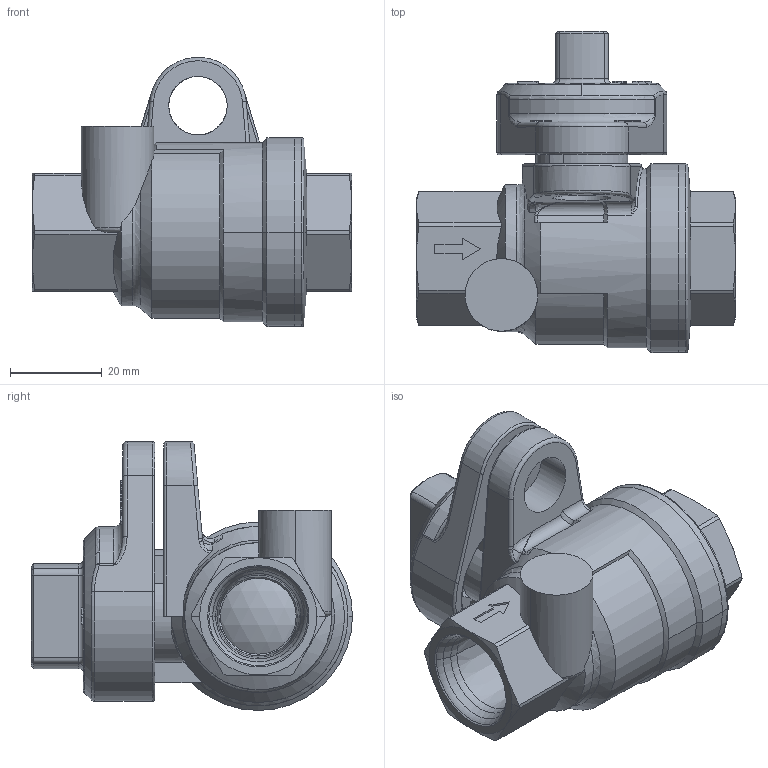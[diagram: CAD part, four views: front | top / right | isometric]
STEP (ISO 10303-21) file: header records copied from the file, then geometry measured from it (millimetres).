
FILE_DESCRIPTION((''),'2;1');
FILE_NAME('175LWN_1-2_ASM','2018-10-15T',('alessio.piazza'),(''),'CREO PARAMETRIC BY PTC INC, 2017170','CREO PARAMETRIC BY PTC INC, 2017170','');
FILE_SCHEMA(('CONFIG_CONTROL_DESIGN'));
Length unit declared in the file: millimetre
Products named in the file (12): 99162; 87164; 92288; 87189; SEDE_PTFE_F20; AN_PTFE_SF_20_AF0; OR_107_8_5X1_4_AF0; OR_107_8_25X1_475_AF0; 99164; 92204; 15169; 175LWN_1-2_ASM
Assembly tree (12 placements, depth 2):
  175LWN_1-2_ASM
    99162
    87164
    92288
    87189
    SEDE_PTFE_F20  x2
    AN_PTFE_SF_20_AF0
    OR_107_8_5X1_4_AF0
    OR_107_8_25X1_475_AF0
    99164
    92204
    15169
Bounding box: 69.4 x 69.8 x 58.49 mm (x, y, z)
Volume: 66037.1 mm3; surface area: 42458.9 mm2
Topology: 12 solids, 18 shells, 821 faces, 2080 edges, 1306 vertices
Faces by surface type: plane 430, cylinder 152, cone 105, torus 72, extrusion 22, bspline 18, revolution 16, sphere 6
Entity records: 26573 total; most frequent: CARTESIAN_POINT 6832, ORIENTED_EDGE 4072, DIRECTION 4013, EDGE_CURVE 2050, AXIS2_PLACEMENT_3D 1358, VERTEX_POINT 1290, VECTOR 1281, LINE 1259
